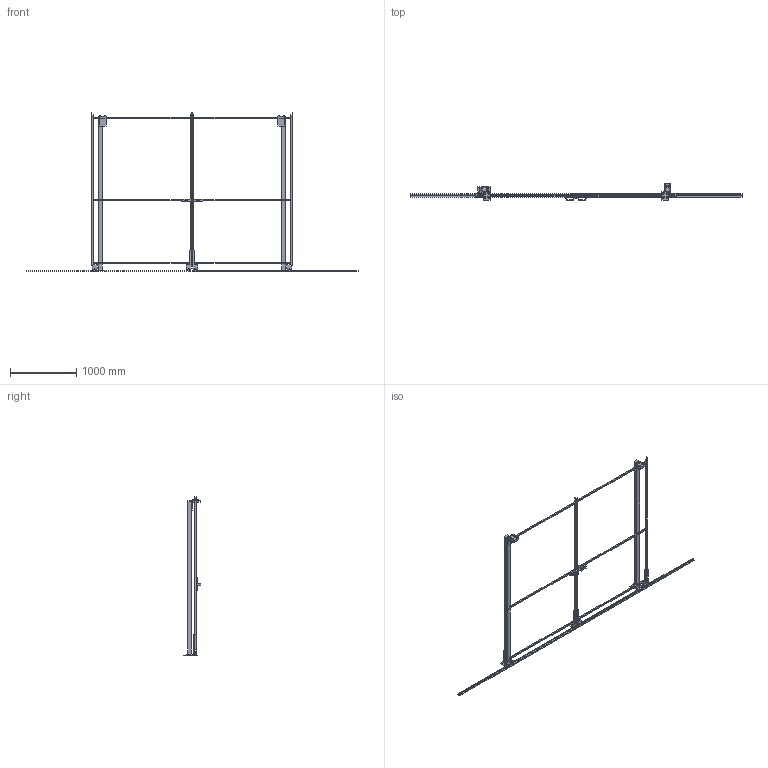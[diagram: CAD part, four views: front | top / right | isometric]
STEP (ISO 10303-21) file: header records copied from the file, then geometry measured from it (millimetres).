
FILE_DESCRIPTION(/* description */ (''),/* implementation_level */ '2;1');
FILE_NAME(/* name */ 'C:\SafeGuarding\ELABORATI\Drawing4_2025-05-14-10-21-47.stp',/* time_stamp */ '2025-05-14T10:21:49+02:00',/* author */ ('admin'),/* organization */ (''),/* preprocessor_version */ 'ST-DEVELOPER v18.1',/* originating_system */ 'AutoCAD Mechanical',/* authorisation */ '');
FILE_SCHEMA (('AUTOMOTIVE_DESIGN { 1 0 10303 214 3 1 1 }'));
Length unit declared in the file: millimetre
Products named in the file (3): Product; R_VFPA.REPE20.15002200; P_VFMA.V260SDU.2320
Assembly tree (4 placements, depth 2):
  Product
    R_VFPA.REPE20.15002200  x2
    P_VFMA.V260SDU.2320  x2
Bounding box: 5000 x 257.4 x 2390 mm (x, y, z)
Volume: 26726517.8 mm3; surface area: 3957671.8 mm2
Topology: 52 solids, 74 shells, 504 faces, 1604 edges, 1552 vertices
Faces by surface type: plane 440, cylinder 56, cone 8
Full cylindrical faces by diameter (mm): 9 x8, 11 x8, 13 x8, 14 x4, 18 x8, 30 x4, 36 x8, 58 x8
Entity records: 15413 total; most frequent: CARTESIAN_POINT 3274, DIRECTION 2323, ORIENTED_EDGE 2224, EDGE_CURVE 1210, LINE 1013, VECTOR 1013, VERTEX_POINT 888, AXIS2_PLACEMENT_3D 655
